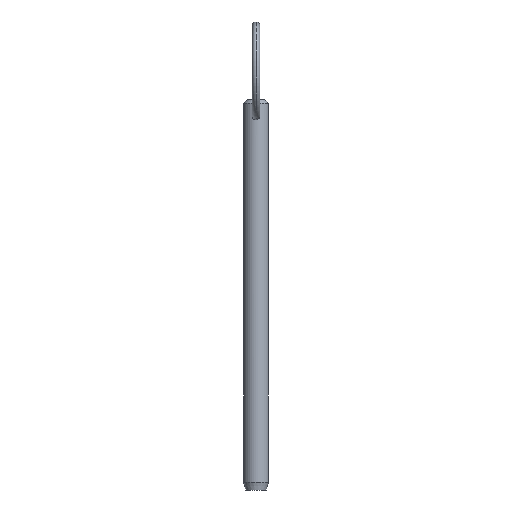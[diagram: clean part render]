
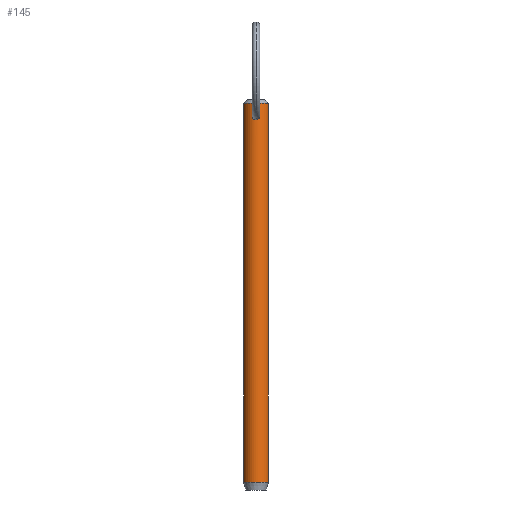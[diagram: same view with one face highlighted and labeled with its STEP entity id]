
A CAD part, front view. The second image highlights one B-rep face of the part: STEP entity #145.
In plain terms, the highlighted cylindrical face has radius 3.175 mm (diameter 6.35 mm), a partial arc.
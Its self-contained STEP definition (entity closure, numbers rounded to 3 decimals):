
#13 = CARTESIAN_POINT ( 'NONE',  ( 0.888, -3.049, 87.309 ) ) ;
#28 = AXIS2_PLACEMENT_3D ( 'NONE', #406, #109, #407 ) ;
#36 = CARTESIAN_POINT ( 'NONE',  ( 0., 0., -5.92 ) ) ;
#44 = CARTESIAN_POINT ( 'NONE',  ( 0.51, -3.136, 88.734 ) ) ;
#47 = CARTESIAN_POINT ( 'NONE',  ( 0.982, -3.02, 87.558 ) ) ;
#49 = CARTESIAN_POINT ( 'NONE',  ( -0.815, -3.07, 87.195 ) ) ;
#53 = CARTESIAN_POINT ( 'NONE',  ( -0.983, -3.02, 87.559 ) ) ;
#58 = CARTESIAN_POINT ( 'NONE',  ( -3.175, 0., 90.98 ) ) ;
#69 = FACE_OUTER_BOUND ( 'NONE', #114, .T. ) ;
#86 = B_SPLINE_CURVE_WITH_KNOTS ( 'NONE', 3,
 ( #274, #128, #286, #427, #426, #49, #217, #53, #389, #220, #126, #386, #173, #428, #177, #466, #471, #96 ),
 .UNSPECIFIED., .F., .F.,
 ( 4, 2, 2, 2, 2, 2, 2, 2, 4 ),
 ( 0.006, 0.006, 0.007, 0.007, 0.008, 0.008, 0.009, 0.009, 0.009 ),
 .UNSPECIFIED. ) ;
#88 = CARTESIAN_POINT ( 'NONE',  ( 0.269, -3.166, 88.85 ) ) ;
#89 = EDGE_LOOP ( 'NONE', ( #451, #202 ) ) ;
#94 = CARTESIAN_POINT ( 'NONE',  ( 0., -3.175, 88.882 ) ) ;
#96 = CARTESIAN_POINT ( 'NONE',  ( 0., -3.175, 88.882 ) ) ;
#103 = ORIENTED_EDGE ( 'NONE', *, *, #317, .T. ) ;
#109 = DIRECTION ( 'NONE',  ( 0., 0., -1. ) ) ;
#112 = CARTESIAN_POINT ( 'NONE',  ( 3.175, 0., 86.4 ) ) ;
#113 = CARTESIAN_POINT ( 'NONE',  ( 0., -3.175, 86.803 ) ) ;
#114 = EDGE_LOOP ( 'NONE', ( #258, #482, #449, #103 ) ) ;
#126 = CARTESIAN_POINT ( 'NONE',  ( -0.882, -3.055, 88.36 ) ) ;
#128 = CARTESIAN_POINT ( 'NONE',  ( -0.134, -3.175, 86.803 ) ) ;
#129 = VERTEX_POINT ( 'NONE', #309 ) ;
#135 = EDGE_CURVE ( 'NONE', #129, #287, #196, .T. ) ;
#145 = ADVANCED_FACE ( 'NONE', ( #69, #188 ), #398, .T. ) ;
#158 = DIRECTION ( 'NONE',  ( 0., 0., -1. ) ) ;
#163 = EDGE_CURVE ( 'NONE', #129, #377, #240, .T. ) ;
#165 = CARTESIAN_POINT ( 'NONE',  ( 1.004, -3.012, 87.693 ) ) ;
#166 = B_SPLINE_CURVE_WITH_KNOTS ( 'NONE', 3,
 ( #276, #371, #88, #44, #341, #314, #207, #165, #47, #13, #423, #422, #418, #457, #208, #415 ),
 .UNSPECIFIED., .F., .F.,
 ( 4, 2, 2, 2, 2, 2, 2, 4 ),
 ( 0.003, 0.003, 0.004, 0.004, 0.005, 0.005, 0.006, 0.006 ),
 .UNSPECIFIED. ) ;
#171 = CARTESIAN_POINT ( 'NONE',  ( -3.175, 0., -5.92 ) ) ;
#173 = CARTESIAN_POINT ( 'NONE',  ( -0.508, -3.136, 88.735 ) ) ;
#176 = VERTEX_POINT ( 'NONE', #113 ) ;
#177 = CARTESIAN_POINT ( 'NONE',  ( -0.264, -3.165, 88.844 ) ) ;
#179 = CIRCLE ( 'NONE', #353, 3.175 ) ;
#188 = FACE_BOUND ( 'NONE', #89, .T. ) ;
#196 = CIRCLE ( 'NONE', #28, 3.175 ) ;
#202 = ORIENTED_EDGE ( 'NONE', *, *, #280, .T. ) ;
#207 = CARTESIAN_POINT ( 'NONE',  ( 0.992, -3.016, 88.094 ) ) ;
#208 = CARTESIAN_POINT ( 'NONE',  ( 0.134, -3.175, 86.803 ) ) ;
#217 = CARTESIAN_POINT ( 'NONE',  ( -0.888, -3.049, 87.309 ) ) ;
#219 = VECTOR ( 'NONE', #158, 1000. ) ;
#220 = CARTESIAN_POINT ( 'NONE',  ( -0.991, -3.016, 88.096 ) ) ;
#222 = EDGE_CURVE ( 'NONE', #287, #385, #360, .T. ) ;
#233 = DIRECTION ( 'NONE',  ( 0., 0., -1. ) ) ;
#240 = LINE ( 'NONE', #112, #392 ) ;
#258 = ORIENTED_EDGE ( 'NONE', *, *, #163, .F. ) ;
#274 = CARTESIAN_POINT ( 'NONE',  ( 0., -3.175, 86.803 ) ) ;
#276 = CARTESIAN_POINT ( 'NONE',  ( 0., -3.175, 88.882 ) ) ;
#280 = EDGE_CURVE ( 'NONE', #176, #442, #86, .T. ) ;
#286 = CARTESIAN_POINT ( 'NONE',  ( -0.269, -3.166, 86.829 ) ) ;
#287 = VERTEX_POINT ( 'NONE', #58 ) ;
#309 = CARTESIAN_POINT ( 'NONE',  ( 3.175, 0., 90.98 ) ) ;
#311 = DIRECTION ( 'NONE',  ( 0., 0., 1. ) ) ;
#314 = CARTESIAN_POINT ( 'NONE',  ( 0.884, -3.055, 88.357 ) ) ;
#316 = CARTESIAN_POINT ( 'NONE',  ( 3.175, 0., -5.92 ) ) ;
#317 = EDGE_CURVE ( 'NONE', #385, #377, #179, .T. ) ;
#325 = EDGE_CURVE ( 'NONE', #442, #176, #166, .T. ) ;
#332 = DIRECTION ( 'NONE',  ( -1., 0., 0. ) ) ;
#337 = CARTESIAN_POINT ( 'NONE',  ( -3.175, 0., 86.4 ) ) ;
#339 = DIRECTION ( 'NONE',  ( -1., 0., 0. ) ) ;
#341 = CARTESIAN_POINT ( 'NONE',  ( 0.617, -3.116, 88.651 ) ) ;
#353 = AXIS2_PLACEMENT_3D ( 'NONE', #36, #311, #339 ) ;
#360 = LINE ( 'NONE', #337, #219 ) ;
#366 = CARTESIAN_POINT ( 'NONE',  ( 0., 0., 86.4 ) ) ;
#367 = DIRECTION ( 'NONE',  ( 0., 0., -1. ) ) ;
#371 = CARTESIAN_POINT ( 'NONE',  ( 0.134, -3.175, 88.882 ) ) ;
#377 = VERTEX_POINT ( 'NONE', #316 ) ;
#385 = VERTEX_POINT ( 'NONE', #171 ) ;
#386 = CARTESIAN_POINT ( 'NONE',  ( -0.615, -3.116, 88.653 ) ) ;
#389 = CARTESIAN_POINT ( 'NONE',  ( -1.004, -3.012, 87.695 ) ) ;
#392 = VECTOR ( 'NONE', #367, 1000. ) ;
#398 = CYLINDRICAL_SURFACE ( 'NONE', #462, 3.175 ) ;
#406 = CARTESIAN_POINT ( 'NONE',  ( 0., 0., 90.98 ) ) ;
#407 = DIRECTION ( 'NONE',  ( 1., 0., 0. ) ) ;
#415 = CARTESIAN_POINT ( 'NONE',  ( 0., -3.175, 86.803 ) ) ;
#418 = CARTESIAN_POINT ( 'NONE',  ( 0.515, -3.135, 86.93 ) ) ;
#422 = CARTESIAN_POINT ( 'NONE',  ( 0.628, -3.114, 87.004 ) ) ;
#423 = CARTESIAN_POINT ( 'NONE',  ( 0.815, -3.07, 87.195 ) ) ;
#426 = CARTESIAN_POINT ( 'NONE',  ( -0.629, -3.114, 87.005 ) ) ;
#427 = CARTESIAN_POINT ( 'NONE',  ( -0.516, -3.135, 86.931 ) ) ;
#428 = CARTESIAN_POINT ( 'NONE',  ( -0.328, -3.159, 88.821 ) ) ;
#442 = VERTEX_POINT ( 'NONE', #94 ) ;
#449 = ORIENTED_EDGE ( 'NONE', *, *, #222, .T. ) ;
#451 = ORIENTED_EDGE ( 'NONE', *, *, #325, .T. ) ;
#457 = CARTESIAN_POINT ( 'NONE',  ( 0.268, -3.166, 86.829 ) ) ;
#462 = AXIS2_PLACEMENT_3D ( 'NONE', #366, #233, #332 ) ;
#466 = CARTESIAN_POINT ( 'NONE',  ( -0.133, -3.173, 88.874 ) ) ;
#471 = CARTESIAN_POINT ( 'NONE',  ( -0.067, -3.175, 88.882 ) ) ;
#482 = ORIENTED_EDGE ( 'NONE', *, *, #135, .T. ) ;
